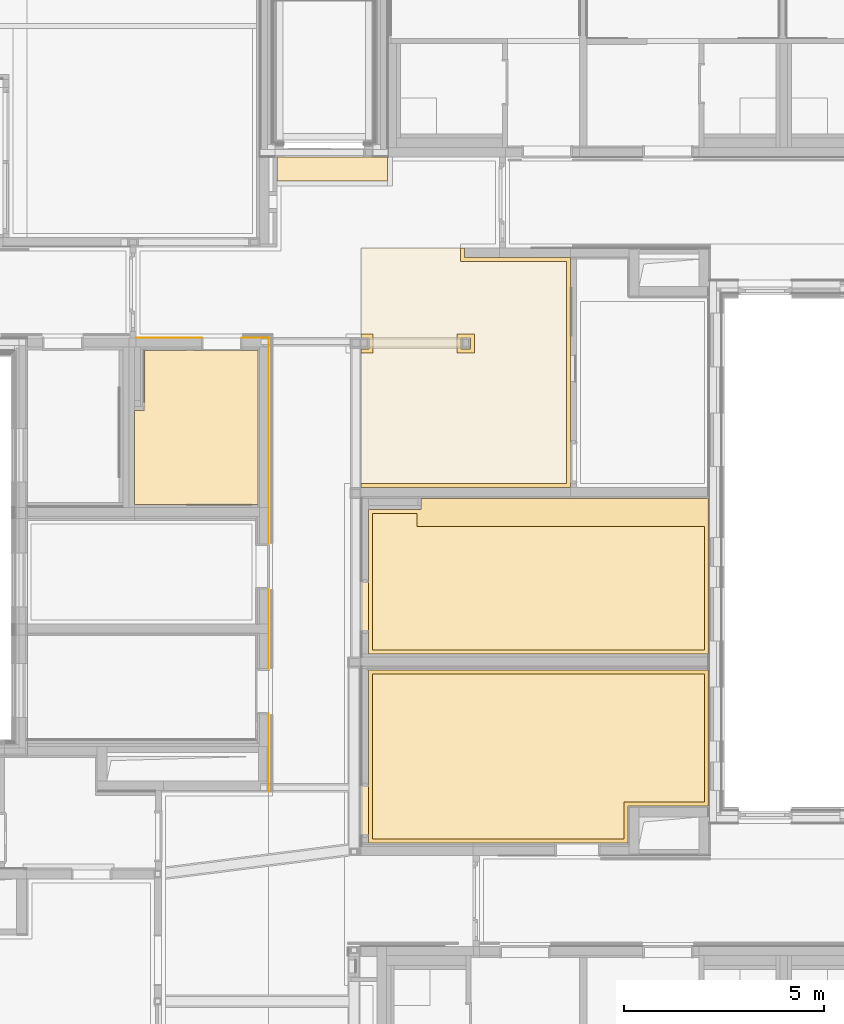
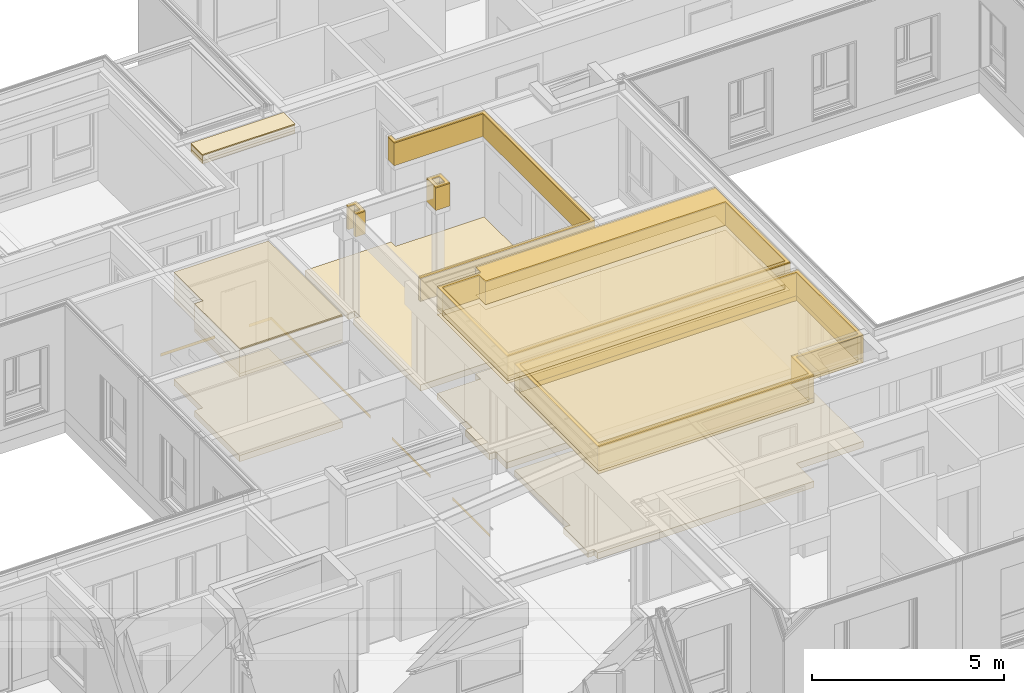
# One storey, part 182 of 207: 31 coverings.
"""IFC4 building model written with IfcOpenShell, lengths in metres."""

from ifc_helpers import new_model, entity, si_unit, converted_unit, derived_unit, frame, frame_2d, origin, origin_with_axes, place, context, subcontext, project, spatial, polyline, rectangle, outline, extrude, material, layer, layer_set, layer_usage, element, save


model = new_model("IFC4")

# Units and contexts
model_context = context("Model", 3, precision=1e-05, world=origin())
body_context = subcontext(model_context, "Body", "Model", "MODEL_VIEW")
ifc_project = project(units=[si_unit("LENGTHUNIT", "METRE"), si_unit("AREAUNIT", "SQUARE_METRE"), si_unit("VOLUMEUNIT", "CUBIC_METRE"), si_unit("MASSUNIT", "GRAM", prefix="KILO"), converted_unit("PLANEANGLEUNIT", "DEGREE", entity("IfcPlaneAngleMeasure", 0.0174532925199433), si_unit("PLANEANGLEUNIT", "RADIAN"), dimensions=[0, 0, 0, 0, 0, 0, 0]), derived_unit("THERMALTRANSMITTANCEUNIT", [(si_unit("POWERUNIT", "WATT"), 1), (si_unit("THERMODYNAMICTEMPERATUREUNIT", "KELVIN"), -1), (si_unit("LENGTHUNIT", "METRE"), -2)]), derived_unit("VOLUMETRICFLOWRATEUNIT", [(si_unit("LENGTHUNIT", "METRE"), 3), (converted_unit("TIMEUNIT", "hour", entity("IfcTimeMeasure", 3600.0), si_unit("TIMEUNIT", "SECOND"), dimensions=[0, 0, 1, 0, 0, 0, 0]), -1), (si_unit("LENGTHUNIT", "METRE"), -1)])], contexts=[model_context])

# Site, building, storey, space
site_placement = place(None, origin())
site = spatial("IfcSite", under=ifc_project, at=site_placement, Name="Psychiatrie Neubau Wunstorf", CompositionType="ELEMENT")
building_placement = place(site_placement, origin())
building = spatial("IfcBuilding", under=site, at=building_placement, Name="Neubau H2 Stationsgebäude", CompositionType="ELEMENT")
storey_placement = place(building_placement, frame((0.0, 0.0, -0.2)))
storey = spatial("IfcBuildingStorey", under=building, at=storey_placement, Name="H2 Ebene 0", CompositionType="ELEMENT", Elevation=-0.2)
space_1_placement = place(storey_placement, frame((59.7893138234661, 0.53600244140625, 0.0)))
space_1 = spatial("IfcSpace", under=storey, at=space_1_placement, Name="WUN-H2-E00-F07", CompositionType="ELEMENT")

# Coverings
ifc_material_1 = material(Name="97")
ifc_layer_1 = layer(ifc_material_1, 0.001)
ifc_layer_set_1 = layer_set([ifc_layer_1])
ifc_layer_usage_1 = layer_usage(ifc_layer_set_1, "AXIS3", "POSITIVE", 0.0)
covering_1_placement = place(space_1_placement, frame((5.00418617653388, 8.66899761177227, 0.8)))
element("IfcCovering", 1, at=covering_1_placement, inside=space_1, material=ifc_layer_usage_1, Name="Handlauf", PredefinedType="CLADDING", context=body_context, shape_type="SweptSolid", body=[
    extrude(rectangle(XDim=0.1, YDim=1.95357165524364, at=frame_2d((-0.976785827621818, -0.05), x_axis=(0.0, -1.0))), frame((3.32400000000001, 0.0, 0.0), z_axis=(1.0, 0.0, 0.0), x_axis=(0.0, -1.0, 0.0)), (0.0, 0.0, 1.0), 0.001),
    extrude(rectangle(XDim=0.1, YDim=1.99642829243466, at=frame_2d((-0.998214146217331, -0.05), x_axis=(0.0, -1.0))), frame((3.32400000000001, 3.08857165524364, 0.0), z_axis=(1.0, 0.0, 0.0), x_axis=(0.0, -1.0, 0.0)), (0.0, 0.0, 1.0), 0.001),
    extrude(rectangle(XDim=0.1, YDim=0.9105, at=frame_2d((-0.45525, -0.05), x_axis=(0.0, -1.0))), frame((3.32400000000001, 6.2199999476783, 0.0), z_axis=(1.0, 0.0, 0.0), x_axis=(0.0, -1.0, 0.0)), (0.0, 0.0, 1.0), 0.001),
    extrude(rectangle(XDim=4.24999815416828, YDim=0.1, at=frame_2d((-2.12499907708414, 0.05), x_axis=(-1.0, 0.0))), frame((3.32400000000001, 7.1309999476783, 0.1), z_axis=(1.0, 0.0, 0.0), x_axis=(0.0, -1.0, 0.0)), (0.0, 0.0, 1.0), 0.001),
    extrude(rectangle(XDim=0.1, YDim=0.672, at=frame_2d((-0.336, -0.05), x_axis=(0.0, -1.0))), frame((3.32400000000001, 11.3809981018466, 0.0), z_axis=(-3.85397134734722e-08, 0.999999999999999, 0.0), x_axis=(0.999999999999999, 3.85397134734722e-08, 0.0)), (0.0, 0.0, 1.0), 0.001),
    extrude(rectangle(XDim=0.1, YDim=1.64200000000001, at=frame_2d((-0.821000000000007, -0.05), x_axis=(0.0, -1.0))), frame((1.64200000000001, 11.3809980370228, 0.0), z_axis=(-3.85397128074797e-08, 0.999999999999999, 2.11293967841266e-23), x_axis=(0.999999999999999, 3.85397128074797e-08, 0.0)), (0.0, 0.0, 1.0), 0.001),
])
ifc_material_2 = material()
ifc_layer_2 = layer(ifc_material_2, 0.036)
ifc_layer_set_2 = layer_set([ifc_layer_2])
ifc_layer_usage_2 = layer_usage(ifc_layer_set_2, "AXIS3", "POSITIVE", 0.0)
covering_2_placement = place(space_1_placement, frame((8.53168617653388, 23.9780012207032, 3.6)))
element("IfcCovering", 2, at=covering_2_placement, inside=space_1, material=ifc_layer_usage_2, Name="Gipsfaserplatten 2-lagig (BSK)", PredefinedType="CEILING", context=body_context, shape_type="SweptSolid", body=[
    extrude(rectangle(XDim=2.779, YDim=0.6, at=frame_2d((1.3895, 0.3), x_axis=(1.0, 0.0))), frame((0.0, 0.6, 0.0), z_axis=(0.0, 0.0, -1.0), x_axis=(1.0, 0.0, 0.0)), (0.0, 0.0, 1.0), 0.036),
])
ifc_material_3 = material(Name="Installationshöhe")
ifc_layer_3 = layer(ifc_material_3, 0.164)
ifc_layer_set_3 = layer_set([ifc_layer_3])
ifc_layer_usage_3 = layer_usage(ifc_layer_set_3, "AXIS3", "POSITIVE", 0.0)
covering_3_placement = place(space_1_placement, frame((8.53168617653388, 23.9780012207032, 3.564)))
element("IfcCovering", 3, at=covering_3_placement, inside=space_1, material=ifc_layer_usage_3, Name="Gipsfaserplatten 2-lagig (BSK)", PredefinedType="CEILING", context=body_context, shape_type="SweptSolid", body=[
    extrude(rectangle(XDim=2.779, YDim=0.6, at=frame_2d((1.3895, 0.3), x_axis=(1.0, 0.0))), frame((0.0, 0.6, 0.0), z_axis=(0.0, 0.0, -1.0), x_axis=(1.0, 0.0, 0.0)), (0.0, 0.0, 1.0), 0.164),
])
ifc_material_4 = material(Name="A1")
ifc_layer_4 = layer(ifc_material_4, 0.1)
ifc_layer_set_4 = layer_set([ifc_layer_4])
ifc_layer_usage_4 = layer_usage(ifc_layer_set_4, "AXIS3", "POSITIVE", 0.0)
covering_4_placement = place(space_1_placement, frame((8.53168617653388, 23.9780012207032, 3.4)))
element("IfcCovering", 4, at=covering_4_placement, inside=space_1, material=ifc_layer_usage_4, Name="Gipsfaserplatten 2-lagig (BSK)", PredefinedType="CEILING", context=body_context, shape_type="SweptSolid", body=[
    extrude(rectangle(XDim=2.779, YDim=0.6, at=frame_2d((1.3895, 0.3), x_axis=(1.0, 0.0))), frame((0.0, 0.6, 0.0), z_axis=(0.0, 0.0, -1.0), x_axis=(1.0, 0.0, 0.0)), (0.0, 0.0, 1.0), 0.1),
])
ifc_material_5 = material(Name="D1")
ifc_layer_5 = layer(ifc_material_5, 0.001)
ifc_layer_set_5 = layer_set([ifc_layer_5])
ifc_layer_usage_5 = layer_usage(ifc_layer_set_5, "AXIS3", "POSITIVE", 0.0)
covering_5_placement = place(space_1_placement, frame((8.53168617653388, 23.9780012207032, 3.3)))
element("IfcCovering", 5, at=covering_5_placement, inside=space_1, material=ifc_layer_usage_5, Name="Gipsfaserplatten 2-lagig (BSK)", PredefinedType="CEILING", context=body_context, shape_type="SweptSolid", body=[
    extrude(rectangle(XDim=2.779, YDim=0.6, at=frame_2d((1.3895, 0.3), x_axis=(1.0, 0.0))), frame((0.0, 0.6, 0.0), z_axis=(0.0, 0.0, -1.0), x_axis=(1.0, 0.0, 0.0)), (0.0, 0.0, 1.0), 0.001),
])

# Space
space_2_placement = place(storey_placement, frame((70.4300000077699, 16.8325, 0.0)))
space_2 = spatial("IfcSpace", under=storey, at=space_2_placement, Name="WUN-H2-E00-F09a", CompositionType="ELEMENT")

# Coverings
ifc_material_6 = material(Name="Ku1")
ifc_layer_6 = layer(ifc_material_6, 0.2)
ifc_layer_set_6 = layer_set([ifc_layer_6])
ifc_layer_usage_6 = layer_usage(ifc_layer_set_6, "AXIS3", "POSITIVE", 0.0)
covering_6_placement = place(space_2_placement, origin())
element("IfcCovering", 6, at=covering_6_placement, inside=space_2, material=ifc_layer_usage_6, Name="PVC Bahnenware Holzoptik", PredefinedType="FLOORING", context=body_context, shape_type="SweptSolid", body=[
    extrude(outline(polyline([(2.43363635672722e-06, 0.0), (5.25399999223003, 0.0), (5.25399999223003, 5.7715), (2.59199999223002, 5.7715), (2.59199999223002, 6.00350000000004), (0.0, 6.00350000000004), (0.0, 3.7534951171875), (0.196, 3.75349802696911), (0.196, 3.47150093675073), (2.43363635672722e-06, 3.47149802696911), (2.43363635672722e-06, 0.0)]), holes=[polyline([(2.50999706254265, 3.7534951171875), (2.74199706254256, 3.7534951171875), (2.74199706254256, 3.4714951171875), (2.50999706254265, 3.47149520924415), (2.50999706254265, 3.7534951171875)])]), origin_with_axes(), (0.0, 0.0, 1.0), 0.2),
])
ifc_material_7 = material()
ifc_layer_7 = layer(ifc_material_7, 0.036)
ifc_layer_set_7 = layer_set([ifc_layer_7])
ifc_layer_usage_7 = layer_usage(ifc_layer_set_7, "AXIS3", "POSITIVE", 0.0)
covering_7_placement = place(space_2_placement, frame((0.0, 0.0, 3.6)))
element("IfcCovering", 7, at=covering_7_placement, inside=space_2, material=ifc_layer_usage_7, Name="Gipsfaserplatten 2-lagig (BSK)", PredefinedType="CEILING", context=body_context, shape_type="SweptSolid", body=[
    extrude(outline(polyline([(0.0, 6.00350000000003), (0.0, 5.90350000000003), (5.15399755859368, 5.90350000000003), (5.15399755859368, 0.33200000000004), (2.48999462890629, 0.33200000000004), (2.48999462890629, 0.0), (2.59199755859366, 0.0), (2.59199755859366, 0.23200000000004), (5.25399755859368, 0.23200000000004), (5.25399755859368, 6.00350000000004), (0.0, 6.00350000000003)])), frame((2.43363635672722e-06, 6.00350000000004, 0.0), z_axis=(0.0, 0.0, -1.0), x_axis=(1.0, 0.0, 0.0)), (0.0, 0.0, 1.0), 0.036),
    extrude(outline(polyline([(0.432000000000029, 0.481998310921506), (0.0, 0.481998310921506), (0.0, 0.0), (0.432000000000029, 0.0), (0.432000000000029, 0.481998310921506)]), holes=[polyline([(0.1, 0.1), (0.1, 0.381999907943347), (0.331999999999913, 0.382), (0.331999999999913, 0.1), (0.1, 0.1)])]), frame((2.40999706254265, 3.8534951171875, 0.0), z_axis=(0.0, 0.0, -1.0), x_axis=(1.0, 0.0, 0.0)), (0.0, 0.0, 1.0), 0.036),
    extrude(outline(polyline([(0.296, 0.482000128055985), (2.43363635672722e-06, 0.482000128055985), (2.43363635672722e-06, 0.382000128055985), (0.196, 0.381997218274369), (0.196, 0.100000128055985), (0.0, 0.1000030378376), (0.0, 0.0), (0.296, 3.03783759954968e-06), (0.296, 0.482000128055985)])), frame((0.0, 3.8534981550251, 0.0), z_axis=(0.0, 0.0, -1.0), x_axis=(1.0, 0.0, 0.0)), (0.0, 0.0, 1.0), 0.036),
])
ifc_material_8 = material(Name="Installationshöhe")
ifc_layer_8 = layer(ifc_material_8, 0.714)
ifc_layer_set_8 = layer_set([ifc_layer_8])
ifc_layer_usage_8 = layer_usage(ifc_layer_set_8, "AXIS3", "POSITIVE", 0.0)
covering_8_placement = place(space_2_placement, frame((0.0, 0.0, 3.564)))
element("IfcCovering", 8, at=covering_8_placement, inside=space_2, material=ifc_layer_usage_8, Name="Gipsfaserplatten 2-lagig (BSK)", PredefinedType="CEILING", context=body_context, shape_type="SweptSolid", body=[
    extrude(outline(polyline([(0.0, 6.00350000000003), (0.0, 5.90350000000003), (5.15399755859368, 5.90350000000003), (5.15399755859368, 0.33200000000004), (2.48999462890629, 0.33200000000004), (2.48999462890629, 0.0), (2.59199755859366, 0.0), (2.59199755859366, 0.23200000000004), (5.25399755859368, 0.23200000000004), (5.25399755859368, 6.00350000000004), (0.0, 6.00350000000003)])), frame((2.43363635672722e-06, 6.00350000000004, 0.0), z_axis=(0.0, 0.0, -1.0), x_axis=(1.0, 0.0, 0.0)), (0.0, 0.0, 1.0), 0.714),
    extrude(outline(polyline([(0.432000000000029, 0.481998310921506), (0.0, 0.481998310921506), (0.0, 0.0), (0.432000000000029, 0.0), (0.432000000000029, 0.481998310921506)]), holes=[polyline([(0.1, 0.1), (0.1, 0.381999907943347), (0.331999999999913, 0.382), (0.331999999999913, 0.1), (0.1, 0.1)])]), frame((2.40999706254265, 3.8534951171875, 0.0), z_axis=(0.0, 0.0, -1.0), x_axis=(1.0, 0.0, 0.0)), (0.0, 0.0, 1.0), 0.714),
    extrude(outline(polyline([(0.296, 0.482000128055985), (2.43363635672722e-06, 0.482000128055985), (2.43363635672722e-06, 0.382000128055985), (0.196, 0.381997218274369), (0.196, 0.100000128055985), (0.0, 0.1000030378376), (0.0, 0.0), (0.296, 3.03783759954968e-06), (0.296, 0.482000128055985)])), frame((0.0, 3.8534981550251, 0.0), z_axis=(0.0, 0.0, -1.0), x_axis=(1.0, 0.0, 0.0)), (0.0, 0.0, 1.0), 0.714),
])

# Space
space_3_placement = place(storey_placement, frame((64.76, 16.411000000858, 0.0)))
space_3 = spatial("IfcSpace", under=storey, at=space_3_placement, Name="WUN-H2-E00-067", CompositionType="ELEMENT")

# Coverings
ifc_material_9 = material(Name="Ku1")
ifc_layer_9 = layer(ifc_material_9, 0.2)
ifc_layer_set_9 = layer_set([ifc_layer_9])
ifc_layer_usage_9 = layer_usage(ifc_layer_set_9, "AXIS3", "POSITIVE", 0.0)
covering_9_placement = place(space_3_placement, origin())
element("IfcCovering", 9, at=covering_9_placement, inside=space_3, material=ifc_layer_usage_9, Name="PVC Bahnenware Holzoptik", PredefinedType="FLOORING", context=body_context, shape_type="SweptSolid", body=[
    extrude(outline(polyline([(0.250000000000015, 3.85349802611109), (0.250000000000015, 2.34999604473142), (0.0, 2.34999604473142), (0.0, 0.0), (3.08550000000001, 0.0), (3.08600000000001, 3.85349802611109), (0.250000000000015, 3.85349802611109)])), origin_with_axes(), (0.0, 0.0, 1.0), 0.2),
])
ifc_material_10 = material()
ifc_layer_10 = layer(ifc_material_10, 0.036)
ifc_layer_set_10 = layer_set([ifc_layer_10])
ifc_layer_usage_10 = layer_usage(ifc_layer_set_10, "AXIS3", "POSITIVE", 0.0)
covering_10_placement = place(space_3_placement, frame((0.0, 0.0, 3.6)))
element("IfcCovering", 10, at=covering_10_placement, inside=space_3, material=ifc_layer_usage_10, Name="Gipsfaserplatten 2-lagig (BSK)", PredefinedType="CEILING", context=body_context, shape_type="SweptSolid", body=[
    extrude(outline(polyline([(0.250000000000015, 1.50350198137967), (0.250000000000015, 0.0), (3.08600000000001, 0.0), (3.08550000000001, 3.85349802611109), (0.0, 3.85349802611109), (0.0, 1.50350198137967), (0.250000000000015, 1.50350198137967)])), frame((0.0, 3.85349802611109, 0.0), z_axis=(0.0, 0.0, -1.0), x_axis=(1.0, 0.0, 0.0)), (0.0, 0.0, 1.0), 0.036),
])
ifc_material_11 = material(Name="Installationshöhe")
ifc_layer_11 = layer(ifc_material_11, 0.764)
ifc_layer_set_11 = layer_set([ifc_layer_11])
ifc_layer_usage_11 = layer_usage(ifc_layer_set_11, "AXIS3", "POSITIVE", 0.0)
covering_11_placement = place(space_3_placement, frame((0.0, 0.0, 3.564)))
element("IfcCovering", 11, at=covering_11_placement, inside=space_3, material=ifc_layer_usage_11, Name="Gipsfaserplatten 2-lagig (BSK)", PredefinedType="CEILING", context=body_context, shape_type="SweptSolid", body=[
    extrude(outline(polyline([(0.250000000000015, 1.50350198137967), (0.250000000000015, 0.0), (3.08600000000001, 0.0), (3.08550000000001, 3.85349802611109), (0.0, 3.85349802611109), (0.0, 1.50350198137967), (0.250000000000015, 1.50350198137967)])), frame((0.0, 3.85349802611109, 0.0), z_axis=(0.0, 0.0, -1.0), x_axis=(1.0, 0.0, 0.0)), (0.0, 0.0, 1.0), 0.764),
])
ifc_material_12 = material(Name="H7a")
ifc_layer_12 = layer(ifc_material_12, 0.1)
ifc_layer_set_12 = layer_set([ifc_layer_12])
ifc_layer_usage_12 = layer_usage(ifc_layer_set_12, "AXIS3", "POSITIVE", 0.0)
covering_12_placement = place(space_3_placement, frame((0.0, 0.0, 2.8)))
element("IfcCovering", 12, at=covering_12_placement, inside=space_3, material=ifc_layer_usage_12, Name="Kühldecke glatt", PredefinedType="CEILING", context=body_context, shape_type="SweptSolid", body=[
    extrude(outline(polyline([(0.250000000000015, 1.50350198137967), (0.250000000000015, 0.0), (3.08600000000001, 0.0), (3.08550000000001, 3.85349802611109), (0.0, 3.85349802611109), (0.0, 1.50350198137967), (0.250000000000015, 1.50350198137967)])), frame((0.0, 3.85349802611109, 0.0), z_axis=(0.0, 0.0, -1.0), x_axis=(1.0, 0.0, 0.0)), (0.0, 0.0, 1.0), 0.1),
])
ifc_material_13 = material(Name="D1")
ifc_layer_13 = layer(ifc_material_13, 0.001)
ifc_layer_set_13 = layer_set([ifc_layer_13])
ifc_layer_usage_13 = layer_usage(ifc_layer_set_13, "AXIS3", "POSITIVE", 0.0)
covering_13_placement = place(space_3_placement, frame((0.0, 0.0, 2.7)))
element("IfcCovering", 13, at=covering_13_placement, inside=space_3, material=ifc_layer_usage_13, Name="Gipsfaserplatten 2-lagig (BSK)", PredefinedType="CEILING", context=body_context, shape_type="SweptSolid", body=[
    extrude(outline(polyline([(0.250000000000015, 1.50350198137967), (0.250000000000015, 0.0), (3.08600000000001, 0.0), (3.08550000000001, 3.85349802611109), (0.0, 3.85349802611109), (0.0, 1.50350198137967), (0.250000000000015, 1.50350198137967)])), frame((0.0, 3.85349802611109, 0.0), z_axis=(0.0, 0.0, -1.0), x_axis=(1.0, 0.0, 0.0)), (0.0, 0.0, 1.0), 0.001),
])

# Space
space_4_placement = place(storey_placement, frame((70.619999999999, 12.661, 0.0)))
space_4 = spatial("IfcSpace", under=storey, at=space_4_placement, Name="WUN-H2-E00-058", CompositionType="ELEMENT")

# Coverings
ifc_material_14 = material(Name="Ku1")
ifc_layer_14 = layer(ifc_material_14, 0.2)
ifc_layer_set_14 = layer_set([ifc_layer_14])
ifc_layer_usage_14 = layer_usage(ifc_layer_set_14, "AXIS3", "POSITIVE", 0.0)
covering_14_placement = place(space_4_placement, frame((-0.189999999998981, 0.0, 0.0)))
element("IfcCovering", 14, at=covering_14_placement, inside=space_4, material=ifc_layer_usage_14, Name="PVC Bahnenware Holzoptik", PredefinedType="FLOORING", context=body_context, shape_type="SweptSolid", body=[
    extrude(rectangle(XDim=0.19, YDim=1.26, at=frame_2d((0.095, 0.63), x_axis=(1.0, 0.0))), frame((0.0, 0.564, 0.0), z_axis=(0.0, 0.0, 1.0), x_axis=(1.0, 0.0, 0.0)), (0.0, 0.0, 1.0), 0.2),
    extrude(outline(polyline([(1.31000000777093, 3.89949999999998), (1.31000000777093, 3.62449999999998), (0.0, 3.62449999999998), (0.0, 0.0), (8.51900000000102, 0.0), (8.51900000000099, 3.89949999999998), (1.31000000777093, 3.89949999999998)])), frame((0.189999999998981, 0.0, 0.0), z_axis=(0.0, 0.0, 1.0), x_axis=(1.0, 0.0, 0.0)), (0.0, 0.0, 1.0), 0.2),
])
ifc_material_15 = material()
ifc_layer_15 = layer(ifc_material_15, 0.036)
ifc_layer_set_15 = layer_set([ifc_layer_15])
ifc_layer_usage_15 = layer_usage(ifc_layer_set_15, "AXIS3", "POSITIVE", 0.0)
covering_15_placement = place(space_4_placement, frame((0.0, 0.0, 3.6)))
element("IfcCovering", 15, at=covering_15_placement, inside=space_4, material=ifc_layer_usage_15, Name="Gipsfaserplatten 2-lagig (BSK)", PredefinedType="CEILING", context=body_context, shape_type="SweptSolid", body=[
    extrude(outline(polyline([(1.31000000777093, 0.0), (8.51900000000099, 0.0), (8.51900000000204, 3.89949999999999), (0.0, 3.89949999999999), (0.0, 0.275000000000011), (1.31000000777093, 0.275000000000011), (1.31000000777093, 0.0)]), holes=[polyline([(0.100000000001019, 3.79949999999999), (8.41900000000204, 3.79949999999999), (8.41900000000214, 0.699998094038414), (1.21000000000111, 0.699998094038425), (1.21000000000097, 0.375000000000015), (0.100000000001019, 0.375000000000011), (0.100000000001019, 3.79949999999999)])]), frame((0.0, 3.89949999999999, 0.0), z_axis=(0.0, 0.0, -1.0), x_axis=(1.0, 0.0, 0.0)), (0.0, 0.0, 1.0), 0.036),
])
ifc_material_16 = material(Name="Installationshöhe")
ifc_layer_16 = layer(ifc_material_16, 0.714)
ifc_layer_set_16 = layer_set([ifc_layer_16])
ifc_layer_usage_16 = layer_usage(ifc_layer_set_16, "AXIS3", "POSITIVE", 0.0)
covering_16_placement = place(space_4_placement, frame((0.0, 0.0, 3.564)))
element("IfcCovering", 16, at=covering_16_placement, inside=space_4, material=ifc_layer_usage_16, Name="Gipsfaserplatten 2-lagig (BSK)", PredefinedType="CEILING", context=body_context, shape_type="SweptSolid", body=[
    extrude(outline(polyline([(1.31000000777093, 0.0), (8.51900000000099, 0.0), (8.51900000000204, 3.89949999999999), (0.0, 3.89949999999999), (0.0, 0.275000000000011), (1.31000000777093, 0.275000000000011), (1.31000000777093, 0.0)]), holes=[polyline([(0.100000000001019, 3.79949999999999), (8.41900000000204, 3.79949999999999), (8.41900000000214, 0.699998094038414), (1.21000000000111, 0.699998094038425), (1.21000000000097, 0.375000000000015), (0.100000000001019, 0.375000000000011), (0.100000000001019, 3.79949999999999)])]), frame((0.0, 3.89949999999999, 0.0), z_axis=(0.0, 0.0, -1.0), x_axis=(1.0, 0.0, 0.0)), (0.0, 0.0, 1.0), 0.714),
])
ifc_material_17 = material(Name="A1")
ifc_layer_17 = layer(ifc_material_17, 0.15)
ifc_layer_set_17 = layer_set([ifc_layer_17])
ifc_layer_usage_17 = layer_usage(ifc_layer_set_17, "AXIS3", "POSITIVE", 0.0)
covering_17_placement = place(space_4_placement, frame((0.0, 0.0, 2.85)))
element("IfcCovering", 17, at=covering_17_placement, inside=space_4, material=ifc_layer_usage_17, Name="Gipsfaserplatten 2-lagig (BSK)", PredefinedType="CEILING", context=body_context, shape_type="SweptSolid", body=[
    extrude(outline(polyline([(1.31000000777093, 0.0), (8.51900000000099, 0.0), (8.51900000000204, 3.89949999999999), (0.0, 3.89949999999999), (0.0, 0.275000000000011), (1.31000000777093, 0.275000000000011), (1.31000000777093, 0.0)]), holes=[polyline([(0.100000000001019, 3.79949999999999), (8.41900000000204, 3.79949999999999), (8.41900000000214, 0.699998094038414), (1.21000000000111, 0.699998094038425), (1.21000000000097, 0.375000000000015), (0.100000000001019, 0.375000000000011), (0.100000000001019, 3.79949999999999)])]), frame((0.0, 3.89949999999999, 0.0), z_axis=(0.0, 0.0, -1.0), x_axis=(1.0, 0.0, 0.0)), (0.0, 0.0, 1.0), 0.15),
])
ifc_material_18 = material(Name="D1")
ifc_layer_18 = layer(ifc_material_18, 0.001)
ifc_layer_set_18 = layer_set([ifc_layer_18])
ifc_layer_usage_18 = layer_usage(ifc_layer_set_18, "AXIS3", "POSITIVE", 0.0)
covering_18_placement = place(space_4_placement, frame((0.0, 0.0, 2.7)))
element("IfcCovering", 18, at=covering_18_placement, inside=space_4, material=ifc_layer_usage_18, Name="Gipsfaserplatten 2-lagig (BSK)", PredefinedType="CEILING", context=body_context, shape_type="SweptSolid", body=[
    extrude(outline(polyline([(1.31000000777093, 0.0), (8.51900000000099, 0.0), (8.51900000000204, 3.89949999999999), (0.0, 3.89949999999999), (0.0, 0.275000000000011), (1.31000000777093, 0.275000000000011), (1.31000000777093, 0.0)]), holes=[polyline([(0.100000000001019, 3.79949999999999), (8.41900000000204, 3.79949999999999), (8.41900000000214, 0.699998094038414), (1.21000000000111, 0.699998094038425), (1.21000000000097, 0.375000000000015), (0.100000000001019, 0.375000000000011), (0.100000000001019, 3.79949999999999)])]), frame((0.0, 3.89949999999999, 0.0), z_axis=(0.0, 0.0, -1.0), x_axis=(1.0, 0.0, 0.0)), (0.0, 0.0, 1.0), 0.001),
])
ifc_material_19 = material()
ifc_layer_19 = layer(ifc_material_19, 0.036)
ifc_layer_set_19 = layer_set([ifc_layer_19])
ifc_layer_usage_19 = layer_usage(ifc_layer_set_19, "AXIS3", "POSITIVE", 0.0)
covering_19_placement = place(space_4_placement, frame((0.1, 0.1, 3.6)))
element("IfcCovering", 19, at=covering_19_placement, inside=space_4, material=ifc_layer_usage_19, Name="Gipsfaserplatten 2-lagig (BSK)", PredefinedType="CEILING", context=body_context, shape_type="SweptSolid", body=[
    extrude(outline(polyline([(8.31900000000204, 3.42449999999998), (0.0, 3.42449999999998), (0.0, 0.0), (1.11000000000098, 0.0), (1.11000000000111, 0.324998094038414), (8.31900000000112, 0.324998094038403), (8.31900000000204, 3.42449999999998)])), frame((0.0, 3.42449999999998, 0.0), z_axis=(0.0, 0.0, -1.0), x_axis=(1.0, 0.0, 0.0)), (0.0, 0.0, 1.0), 0.036),
])
ifc_material_20 = material(Name="Installationshöhe")
ifc_layer_20 = layer(ifc_material_20, 0.714)
ifc_layer_set_20 = layer_set([ifc_layer_20])
ifc_layer_usage_20 = layer_usage(ifc_layer_set_20, "AXIS3", "POSITIVE", 0.0)
covering_20_placement = place(space_4_placement, frame((0.1, 0.1, 3.564)))
element("IfcCovering", 20, at=covering_20_placement, inside=space_4, material=ifc_layer_usage_20, Name="Gipsfaserplatten 2-lagig (BSK)", PredefinedType="CEILING", context=body_context, shape_type="SweptSolid", body=[
    extrude(outline(polyline([(8.31900000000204, 3.42449999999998), (0.0, 3.42449999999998), (0.0, 0.0), (1.11000000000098, 0.0), (1.11000000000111, 0.324998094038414), (8.31900000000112, 0.324998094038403), (8.31900000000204, 3.42449999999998)])), frame((0.0, 3.42449999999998, 0.0), z_axis=(0.0, 0.0, -1.0), x_axis=(1.0, 0.0, 0.0)), (0.0, 0.0, 1.0), 0.714),
])
ifc_material_21 = material(Name="Aa")
ifc_layer_21 = layer(ifc_material_21, 0.15)
ifc_layer_set_21 = layer_set([ifc_layer_21])
ifc_layer_usage_21 = layer_usage(ifc_layer_set_21, "AXIS3", "POSITIVE", 0.0)
covering_21_placement = place(space_4_placement, frame((0.1, 0.1, 2.85)))
element("IfcCovering", 21, at=covering_21_placement, inside=space_4, material=ifc_layer_usage_21, Name="Gipsfaserplatten 2-lagig (BSK)", PredefinedType="CEILING", context=body_context, shape_type="SweptSolid", body=[
    extrude(outline(polyline([(8.31900000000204, 3.42449999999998), (0.0, 3.42449999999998), (0.0, 0.0), (1.11000000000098, 0.0), (1.11000000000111, 0.324998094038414), (8.31900000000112, 0.324998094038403), (8.31900000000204, 3.42449999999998)])), frame((0.0, 3.42449999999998, 0.0), z_axis=(0.0, 0.0, -1.0), x_axis=(1.0, 0.0, 0.0)), (0.0, 0.0, 1.0), 0.15),
])
ifc_material_22 = material(Name="D1")
ifc_layer_22 = layer(ifc_material_22, 0.001)
ifc_layer_set_22 = layer_set([ifc_layer_22])
ifc_layer_usage_22 = layer_usage(ifc_layer_set_22, "AXIS3", "POSITIVE", 0.0)
covering_22_placement = place(space_4_placement, frame((0.1, 0.1, 2.7)))
element("IfcCovering", 22, at=covering_22_placement, inside=space_4, material=ifc_layer_usage_22, Name="Gipsfaserplatten 2-lagig (BSK)", PredefinedType="CEILING", context=body_context, shape_type="SweptSolid", body=[
    extrude(outline(polyline([(8.31900000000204, 3.42449999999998), (0.0, 3.42449999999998), (0.0, 0.0), (1.11000000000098, 0.0), (1.11000000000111, 0.324998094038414), (8.31900000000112, 0.324998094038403), (8.31900000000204, 3.42449999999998)])), frame((0.0, 3.42449999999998, 0.0), z_axis=(0.0, 0.0, -1.0), x_axis=(1.0, 0.0, 0.0)), (0.0, 0.0, 1.0), 0.001),
])

# Space
space_5_placement = place(storey_placement, frame((70.619999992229, 7.929, 0.0)))
space_5 = spatial("IfcSpace", under=storey, at=space_5_placement, Name="WUN-H2-E00-059", CompositionType="ELEMENT")

# Coverings
ifc_material_23 = material(Name="Ku1")
ifc_layer_23 = layer(ifc_material_23, 0.2)
ifc_layer_set_23 = layer_set([ifc_layer_23])
ifc_layer_usage_23 = layer_usage(ifc_layer_set_23, "AXIS3", "POSITIVE", 0.0)
covering_23_placement = place(space_5_placement, frame((-0.19, 0.0, 0.0)))
element("IfcCovering", 23, at=covering_23_placement, inside=space_5, material=ifc_layer_usage_23, Name="PVC Bahnenware Holzoptik", PredefinedType="FLOORING", context=body_context, shape_type="SweptSolid", body=[
    extrude(rectangle(XDim=0.19, YDim=1.26, at=frame_2d((0.095, 0.63), x_axis=(1.0, 0.0))), frame((0.0, 0.186004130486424, 0.0), z_axis=(0.0, 0.0, 1.0), x_axis=(1.0, 0.0, 0.0)), (0.0, 0.0, 1.0), 0.2),
    extrude(outline(polyline([(0.0, 0.0), (6.50000037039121, 0.000500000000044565), (6.50000037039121, 0.925999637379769), (8.51900000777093, 0.925999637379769), (8.51900000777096, 4.33500000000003), (0.0, 4.33499999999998), (0.0, 0.0)])), frame((0.19, 0.0, 0.0), z_axis=(0.0, 0.0, 1.0), x_axis=(1.0, 0.0, 0.0)), (0.0, 0.0, 1.0), 0.2),
])
ifc_material_24 = material()
ifc_layer_24 = layer(ifc_material_24, 0.036)
ifc_layer_set_24 = layer_set([ifc_layer_24])
ifc_layer_usage_24 = layer_usage(ifc_layer_set_24, "AXIS3", "POSITIVE", 0.0)
covering_24_placement = place(space_5_placement, frame((0.1, 0.100499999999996, 3.6)))
element("IfcCovering", 24, at=covering_24_placement, inside=space_5, material=ifc_layer_usage_24, Name="Gipsfaserplatten 2-lagig (BSK)", PredefinedType="CEILING", context=body_context, shape_type="SweptSolid", body=[
    extrude(outline(polyline([(8.31900000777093, 3.20900036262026), (6.30000037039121, 3.20900036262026), (6.30000037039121, 4.13449999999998), (0.0, 4.13450000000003), (0.0, 0.0), (8.31900000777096, 0.0), (8.31900000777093, 3.20900036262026)])), frame((0.0, 4.13450000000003, 0.0), z_axis=(0.0, 0.0, -1.0), x_axis=(1.0, 0.0, 0.0)), (0.0, 0.0, 1.0), 0.036),
])
ifc_material_25 = material(Name="Installationshöhe")
ifc_layer_25 = layer(ifc_material_25, 0.714)
ifc_layer_set_25 = layer_set([ifc_layer_25])
ifc_layer_usage_25 = layer_usage(ifc_layer_set_25, "AXIS3", "POSITIVE", 0.0)
covering_25_placement = place(space_5_placement, frame((0.1, 0.100499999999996, 3.564)))
element("IfcCovering", 25, at=covering_25_placement, inside=space_5, material=ifc_layer_usage_25, Name="Gipsfaserplatten 2-lagig (BSK)", PredefinedType="CEILING", context=body_context, shape_type="SweptSolid", body=[
    extrude(outline(polyline([(8.31900000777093, 3.20900036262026), (6.30000037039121, 3.20900036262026), (6.30000037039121, 4.13449999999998), (0.0, 4.13450000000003), (0.0, 0.0), (8.31900000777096, 0.0), (8.31900000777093, 3.20900036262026)])), frame((0.0, 4.13450000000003, 0.0), z_axis=(0.0, 0.0, -1.0), x_axis=(1.0, 0.0, 0.0)), (0.0, 0.0, 1.0), 0.714),
])
ifc_material_26 = material(Name="Aa")
ifc_layer_26 = layer(ifc_material_26, 0.15)
ifc_layer_set_26 = layer_set([ifc_layer_26])
ifc_layer_usage_26 = layer_usage(ifc_layer_set_26, "AXIS3", "POSITIVE", 0.0)
covering_26_placement = place(space_5_placement, frame((0.1, 0.100499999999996, 2.85)))
element("IfcCovering", 26, at=covering_26_placement, inside=space_5, material=ifc_layer_usage_26, Name="Gipsfaserplatten 2-lagig (BSK)", PredefinedType="CEILING", context=body_context, shape_type="SweptSolid", body=[
    extrude(outline(polyline([(8.31900000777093, 3.20900036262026), (6.30000037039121, 3.20900036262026), (6.30000037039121, 4.13449999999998), (0.0, 4.13450000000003), (0.0, 0.0), (8.31900000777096, 0.0), (8.31900000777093, 3.20900036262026)])), frame((0.0, 4.13450000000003, 0.0), z_axis=(0.0, 0.0, -1.0), x_axis=(1.0, 0.0, 0.0)), (0.0, 0.0, 1.0), 0.15),
])
ifc_material_27 = material(Name="D1")
ifc_layer_27 = layer(ifc_material_27, 0.001)
ifc_layer_set_27 = layer_set([ifc_layer_27])
ifc_layer_usage_27 = layer_usage(ifc_layer_set_27, "AXIS3", "POSITIVE", 0.0)
covering_27_placement = place(space_5_placement, frame((0.1, 0.100499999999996, 2.7)))
element("IfcCovering", 27, at=covering_27_placement, inside=space_5, material=ifc_layer_usage_27, Name="Gipsfaserplatten 2-lagig (BSK)", PredefinedType="CEILING", context=body_context, shape_type="SweptSolid", body=[
    extrude(outline(polyline([(8.31900000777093, 3.20900036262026), (6.30000037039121, 3.20900036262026), (6.30000037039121, 4.13449999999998), (0.0, 4.13450000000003), (0.0, 0.0), (8.31900000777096, 0.0), (8.31900000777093, 3.20900036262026)])), frame((0.0, 4.13450000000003, 0.0), z_axis=(0.0, 0.0, -1.0), x_axis=(1.0, 0.0, 0.0)), (0.0, 0.0, 1.0), 0.001),
])
ifc_material_28 = material()
ifc_layer_28 = layer(ifc_material_28, 0.036)
ifc_layer_set_28 = layer_set([ifc_layer_28])
ifc_layer_usage_28 = layer_usage(ifc_layer_set_28, "AXIS3", "POSITIVE", 0.0)
covering_28_placement = place(space_5_placement, frame((0.0, 0.0, 3.6)))
element("IfcCovering", 28, at=covering_28_placement, inside=space_5, material=ifc_layer_usage_28, Name="Gipsfaserplatten 2-lagig (BSK)", PredefinedType="CEILING", context=body_context, shape_type="SweptSolid", body=[
    extrude(outline(polyline([(0.0, 4.33500000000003), (0.0, 0.0), (8.51900000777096, 0.0), (8.51900000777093, 3.40900036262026), (6.50000037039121, 3.40900036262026), (6.50000037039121, 4.33449999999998), (0.0, 4.33500000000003)]), holes=[polyline([(8.41900000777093, 3.30900036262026), (8.41900000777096, 0.1), (0.1, 0.100000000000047), (0.1, 4.23450000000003), (6.40000037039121, 4.23449999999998), (6.40000037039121, 3.30900036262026), (8.41900000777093, 3.30900036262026)])]), frame((0.0, 4.33500000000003, 0.0), z_axis=(0.0, 0.0, -1.0), x_axis=(1.0, 0.0, 0.0)), (0.0, 0.0, 1.0), 0.036),
])
ifc_material_29 = material(Name="Installationshöhe")
ifc_layer_29 = layer(ifc_material_29, 0.714)
ifc_layer_set_29 = layer_set([ifc_layer_29])
ifc_layer_usage_29 = layer_usage(ifc_layer_set_29, "AXIS3", "POSITIVE", 0.0)
covering_29_placement = place(space_5_placement, frame((0.0, 0.0, 3.564)))
element("IfcCovering", 29, at=covering_29_placement, inside=space_5, material=ifc_layer_usage_29, Name="Gipsfaserplatten 2-lagig (BSK)", PredefinedType="CEILING", context=body_context, shape_type="SweptSolid", body=[
    extrude(outline(polyline([(0.0, 4.33500000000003), (0.0, 0.0), (8.51900000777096, 0.0), (8.51900000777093, 3.40900036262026), (6.50000037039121, 3.40900036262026), (6.50000037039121, 4.33449999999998), (0.0, 4.33500000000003)]), holes=[polyline([(8.41900000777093, 3.30900036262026), (8.41900000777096, 0.1), (0.1, 0.100000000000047), (0.1, 4.23450000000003), (6.40000037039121, 4.23449999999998), (6.40000037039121, 3.30900036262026), (8.41900000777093, 3.30900036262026)])]), frame((0.0, 4.33500000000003, 0.0), z_axis=(0.0, 0.0, -1.0), x_axis=(1.0, 0.0, 0.0)), (0.0, 0.0, 1.0), 0.714),
])
ifc_material_30 = material(Name="A1")
ifc_layer_30 = layer(ifc_material_30, 0.15)
ifc_layer_set_30 = layer_set([ifc_layer_30])
ifc_layer_usage_30 = layer_usage(ifc_layer_set_30, "AXIS3", "POSITIVE", 0.0)
covering_30_placement = place(space_5_placement, frame((0.0, 0.0, 2.85)))
element("IfcCovering", 30, at=covering_30_placement, inside=space_5, material=ifc_layer_usage_30, Name="Gipsfaserplatten 2-lagig (BSK)", PredefinedType="CEILING", context=body_context, shape_type="SweptSolid", body=[
    extrude(outline(polyline([(0.0, 4.33500000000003), (0.0, 0.0), (8.51900000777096, 0.0), (8.51900000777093, 3.40900036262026), (6.50000037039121, 3.40900036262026), (6.50000037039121, 4.33449999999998), (0.0, 4.33500000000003)]), holes=[polyline([(8.41900000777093, 3.30900036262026), (8.41900000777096, 0.1), (0.1, 0.100000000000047), (0.1, 4.23450000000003), (6.40000037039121, 4.23449999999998), (6.40000037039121, 3.30900036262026), (8.41900000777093, 3.30900036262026)])]), frame((0.0, 4.33500000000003, 0.0), z_axis=(0.0, 0.0, -1.0), x_axis=(1.0, 0.0, 0.0)), (0.0, 0.0, 1.0), 0.15),
])
ifc_material_31 = material(Name="D1")
ifc_layer_31 = layer(ifc_material_31, 0.001)
ifc_layer_set_31 = layer_set([ifc_layer_31])
ifc_layer_usage_31 = layer_usage(ifc_layer_set_31, "AXIS3", "POSITIVE", 0.0)
covering_31_placement = place(space_5_placement, frame((0.0, 0.0, 2.7)))
element("IfcCovering", 31, at=covering_31_placement, inside=space_5, material=ifc_layer_usage_31, Name="Gipsfaserplatten 2-lagig (BSK)", PredefinedType="CEILING", context=body_context, shape_type="SweptSolid", body=[
    extrude(outline(polyline([(0.0, 4.33500000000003), (0.0, 0.0), (8.51900000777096, 0.0), (8.51900000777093, 3.40900036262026), (6.50000037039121, 3.40900036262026), (6.50000037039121, 4.33449999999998), (0.0, 4.33500000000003)]), holes=[polyline([(8.41900000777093, 3.30900036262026), (8.41900000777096, 0.1), (0.1, 0.100000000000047), (0.1, 4.23450000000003), (6.40000037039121, 4.23449999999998), (6.40000037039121, 3.30900036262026), (8.41900000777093, 3.30900036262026)])]), frame((0.0, 4.33500000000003, 0.0), z_axis=(0.0, 0.0, -1.0), x_axis=(1.0, 0.0, 0.0)), (0.0, 0.0, 1.0), 0.001),
])

save(model, "model.ifc")
